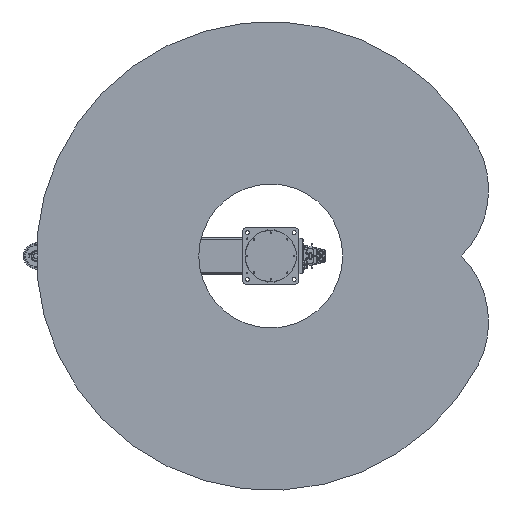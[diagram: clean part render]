
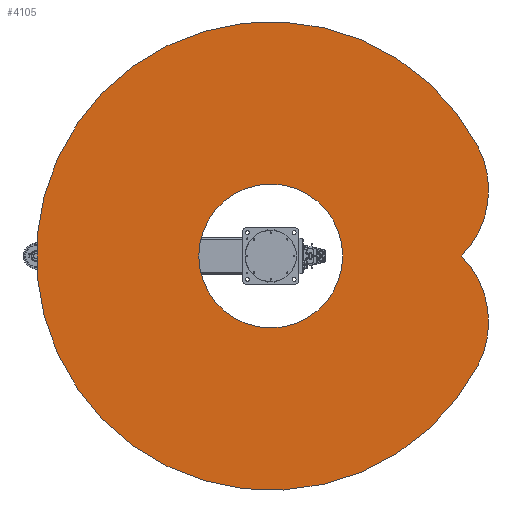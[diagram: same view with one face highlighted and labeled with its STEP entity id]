
A CAD part, front view. The second image highlights one B-rep face of the part: STEP entity #4105.
In plain terms, the highlighted planar face has unit normal (0, -1, 0).
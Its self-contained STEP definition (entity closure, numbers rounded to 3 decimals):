
#4105 = ADVANCED_FACE( '', ( #10187, #10188 ), #10189, .F. );
#10187 = FACE_BOUND( '', #18754, .T. );
#10188 = FACE_OUTER_BOUND( '', #18755, .T. );
#10189 = PLANE( '', #18756 );
#18754 = EDGE_LOOP( '', ( #31806 ) );
#18755 = EDGE_LOOP( '', ( #31807, #31808, #31809 ) );
#18756 = AXIS2_PLACEMENT_3D( '', #31810, #31811, #31812 );
#31806 = ORIENTED_EDGE( '', *, *, #48295, .T. );
#31807 = ORIENTED_EDGE( '', *, *, #49309, .F. );
#31808 = ORIENTED_EDGE( '', *, *, #49310, .F. );
#31809 = ORIENTED_EDGE( '', *, *, #49311, .F. );
#31810 = CARTESIAN_POINT( '', ( 140.842, 0., 264.885 ) );
#31811 = DIRECTION( '', ( 0., 1., 0. ) );
#31812 = DIRECTION( '', ( 0., 0., 1. ) );
#48295 = EDGE_CURVE( '', #57899, #57899, #57900, .T. );
#49309 = EDGE_CURVE( '', #59510, #59511, #59512, .T. );
#49310 = EDGE_CURVE( '', #59513, #59510, #59514, .T. );
#49311 = EDGE_CURVE( '', #59511, #59513, #59515, .T. );
#57899 = VERTEX_POINT( '', #72487 );
#57900 = CIRCLE( '', #72488, 307. );
#59510 = VERTEX_POINT( '', #75062 );
#59511 = VERTEX_POINT( '', #75063 );
#59512 = CIRCLE( '', #75064, 400. );
#59513 = VERTEX_POINT( '', #75065 );
#59514 = CIRCLE( '', #75066, 400. );
#59515 = CIRCLE( '', #75067, 1000. );
#72487 = CARTESIAN_POINT( '', ( 307., 0., 0. ) );
#72488 = AXIS2_PLACEMENT_3D( '', #87363, #87364, #87365 );
#75062 = CARTESIAN_POINT( '', ( 0., 0., 813.767 ) );
#75063 = CARTESIAN_POINT( '', ( 470.133, 0., 882.596 ) );
#75064 = AXIS2_PLACEMENT_3D( '', #88741, #88742, #88743 );
#75065 = CARTESIAN_POINT( '', ( -470.133, 0., 882.596 ) );
#75066 = AXIS2_PLACEMENT_3D( '', #88744, #88745, #88746 );
#75067 = AXIS2_PLACEMENT_3D( '', #88747, #88748, #88749 );
#87363 = CARTESIAN_POINT( '', ( 0., 0., 0. ) );
#87364 = DIRECTION( '', ( 0., 1., 0. ) );
#87365 = DIRECTION( '', ( 1., 0., 0. ) );
#88741 = CARTESIAN_POINT( '', ( 281.683, 0., 529.769 ) );
#88742 = DIRECTION( '', ( 0., 1., 0. ) );
#88743 = DIRECTION( '', ( 1., 0., 0. ) );
#88744 = CARTESIAN_POINT( '', ( -281.683, 0., 529.769 ) );
#88745 = DIRECTION( '', ( 0., 1., 0. ) );
#88746 = DIRECTION( '', ( 1., 0., 0. ) );
#88747 = CARTESIAN_POINT( '', ( 0., 0., 0. ) );
#88748 = DIRECTION( '', ( 0., 1., 0. ) );
#88749 = DIRECTION( '', ( 1., 0., 0. ) );
